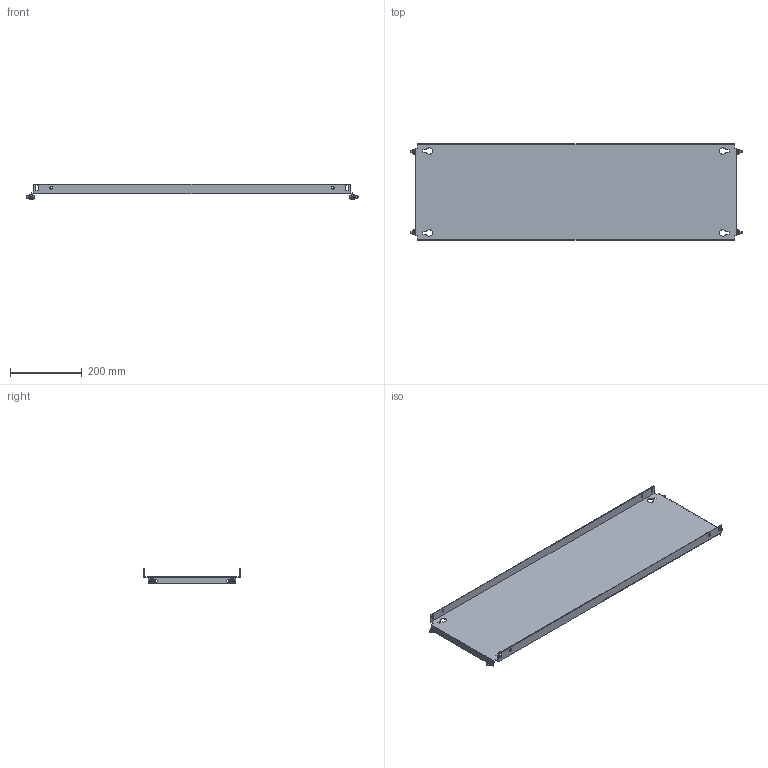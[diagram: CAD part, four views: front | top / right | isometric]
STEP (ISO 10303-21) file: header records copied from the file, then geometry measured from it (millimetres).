
FILE_DESCRIPTION(('Open CASCADE Model'),'2;1');
FILE_NAME('Open CASCADE Shape Model','2025-02-20T13:24:37',('Author'),( 'Open CASCADE'),'Open CASCADE STEP processor 7.8','Open CASCADE 7.8' ,'Unknown');
FILE_SCHEMA(('AUTOMOTIVE_DESIGN { 1 0 10303 214 1 1 1 1 }'));
Length unit declared in the file: millimetre
Products named in the file (4): Compound1; Solid1; Solid2; Solid3
Assembly tree (9 placements, depth 2):
  Compound1
    Solid1
    Solid2  x4
    Solid3  x4
Bounding box: 928 x 269 x 43 mm (x, y, z)
Volume: 587103.7 mm3; surface area: 592605.8 mm2
Topology: 9 solids, 9 shells, 306 faces, 746 edges, 462 vertices
Faces by surface type: plane 150, cone 68, bspline 48, cylinder 28, torus 12
Full cylindrical faces by diameter (mm): 5 x4, 6 x8, 7 x12
Entity records: 4844 total; most frequent: CARTESIAN_POINT 1361, ORIENTED_EDGE 742, DIRECTION 628, EDGE_CURVE 371, VERTEX_POINT 240, LINE 216, VECTOR 216, AXIS2_PLACEMENT_3D 206
